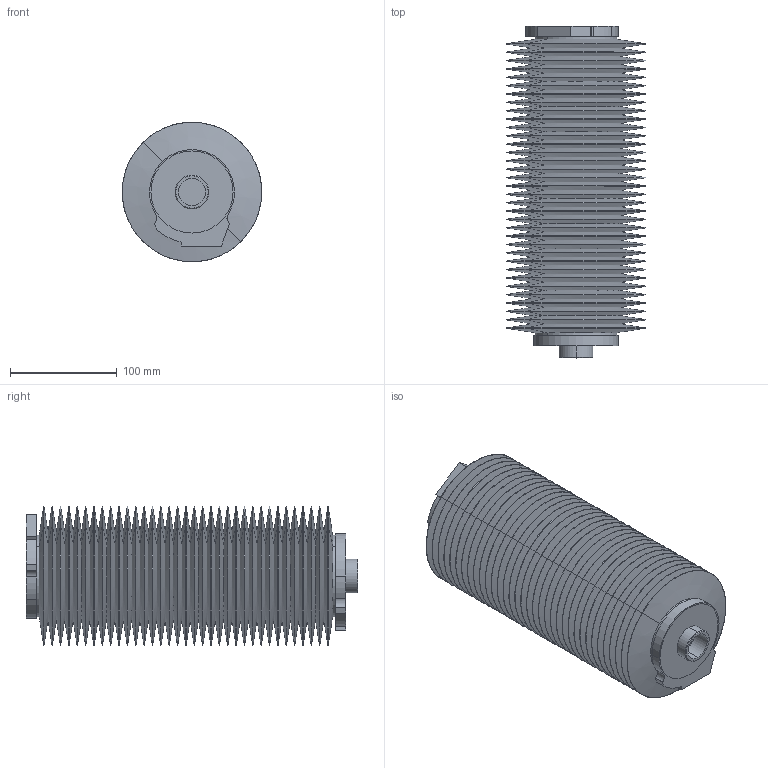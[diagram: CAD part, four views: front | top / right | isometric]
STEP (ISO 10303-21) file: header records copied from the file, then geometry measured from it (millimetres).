
FILE_DESCRIPTION (( 'STEP AP214' ), '1' );
FILE_NAME ('BTS-25-MA-FE-0300-070-V.STEP', '2016-12-21T20:46:26', ( '' ), ( '' ), 'SwSTEP 2.0', 'SolidWorks 2016', '' );
FILE_SCHEMA (( 'AUTOMOTIVE_DESIGN' ));
Length unit declared in the file: inch
Products named in the file (1): BTS-25-MA-FE-0300-070-V
Bounding box: 130.8 x 311.43 x 130.8 mm (x, y, z)
Volume: 2647134.1 mm3; surface area: 615454.2 mm2
Topology: 1 solids, 1 shells, 260 faces, 540 edges, 290 vertices
Faces by surface type: cone 142, torus 70, cylinder 26, plane 22
Entity records: 6840 total; most frequent: DIRECTION 1398, CARTESIAN_POINT 1091, ORIENTED_EDGE 1080, AXIS2_PLACEMENT_3D 597, EDGE_CURVE 540, CIRCLE 336, VERTEX_POINT 290, EDGE_LOOP 268
